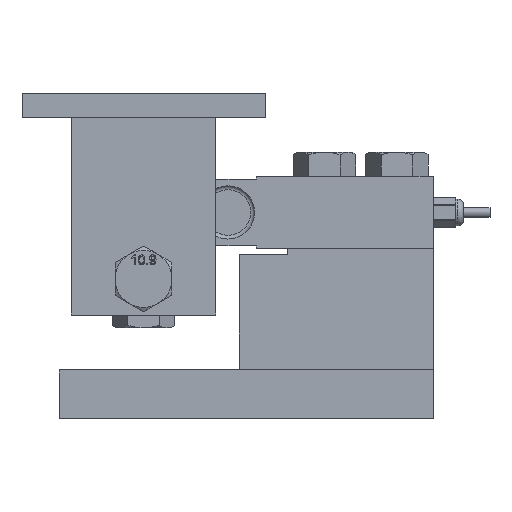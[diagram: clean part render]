
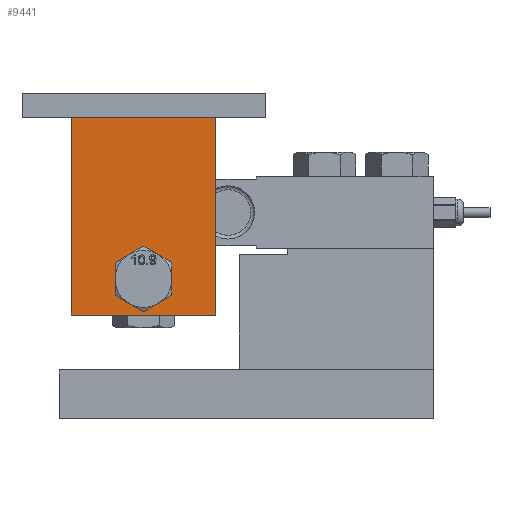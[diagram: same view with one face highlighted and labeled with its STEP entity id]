
A CAD part, top view. The second image highlights one B-rep face of the part: STEP entity #9441.
In plain terms, the highlighted planar face has unit normal (0, 0, 1).
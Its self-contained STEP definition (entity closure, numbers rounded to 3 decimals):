
#416=FACE_BOUND('',#1630,.T.);
#513=PLANE('',#10156);
#699=CIRCLE('',#10151,10.);
#1040=FACE_OUTER_BOUND('',#1629,.T.);
#1629=EDGE_LOOP('',(#7246,#7247,#7248,#7249));
#1630=EDGE_LOOP('',(#7250));
#2675=LINE('',#23886,#3265);
#2692=LINE('',#23933,#3282);
#2695=LINE('',#23939,#3285);
#2698=LINE('',#23943,#3288);
#3265=VECTOR('',#11385,10.);
#3282=VECTOR('',#11436,10.);
#3285=VECTOR('',#11441,10.);
#3288=VECTOR('',#11446,10.);
#4005=VERTEX_POINT('',#23883);
#4006=VERTEX_POINT('',#23885);
#4016=VERTEX_POINT('',#23924);
#4019=VERTEX_POINT('',#23932);
#4021=VERTEX_POINT('',#23938);
#5156=EDGE_CURVE('',#4006,#4005,#2675,.T.);
#5175=EDGE_CURVE('',#4016,#4016,#699,.T.);
#5179=EDGE_CURVE('',#4019,#4006,#2692,.T.);
#5182=EDGE_CURVE('',#4021,#4019,#2695,.T.);
#5185=EDGE_CURVE('',#4005,#4021,#2698,.T.);
#7246=ORIENTED_EDGE('',*,*,#5185,.T.);
#7247=ORIENTED_EDGE('',*,*,#5182,.T.);
#7248=ORIENTED_EDGE('',*,*,#5179,.T.);
#7249=ORIENTED_EDGE('',*,*,#5156,.T.);
#7250=ORIENTED_EDGE('',*,*,#5175,.T.);
#9441=ADVANCED_FACE('',(#1040,#416),#513,.T.);
#10151=AXIS2_PLACEMENT_3D('',#23925,#11428,#11429);
#10156=AXIS2_PLACEMENT_3D('',#23944,#11447,#11448);
#11385=DIRECTION('',(-1.,0.,0.));
#11428=DIRECTION('center_axis',(0.,0.,-1.));
#11429=DIRECTION('ref_axis',(1.,0.,0.));
#11436=DIRECTION('',(0.,1.,0.));
#11441=DIRECTION('',(1.,0.,0.));
#11446=DIRECTION('',(0.,-1.,0.));
#11447=DIRECTION('center_axis',(0.,0.,1.));
#11448=DIRECTION('ref_axis',(1.,0.,0.));
#23883=CARTESIAN_POINT('',(-92.,158.4,41.7));
#23885=CARTESIAN_POINT('',(-16.,158.4,41.7));
#23886=CARTESIAN_POINT('',(-16.,158.4,41.7));
#23924=CARTESIAN_POINT('',(-64.,73.4,41.7));
#23925=CARTESIAN_POINT('Origin',(-54.,73.4,41.7));
#23932=CARTESIAN_POINT('',(-16.,54.4,41.7));
#23933=CARTESIAN_POINT('',(-16.,54.4,41.7));
#23938=CARTESIAN_POINT('',(-92.,54.4,41.7));
#23939=CARTESIAN_POINT('',(-92.,54.4,41.7));
#23943=CARTESIAN_POINT('',(-92.,158.4,41.7));
#23944=CARTESIAN_POINT('Origin',(-54.,106.4,41.7));
